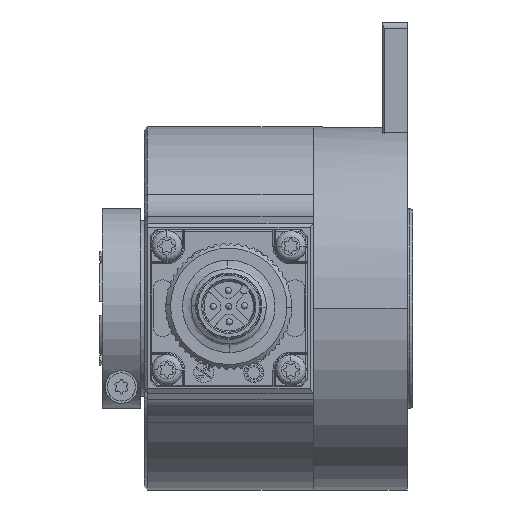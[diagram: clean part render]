
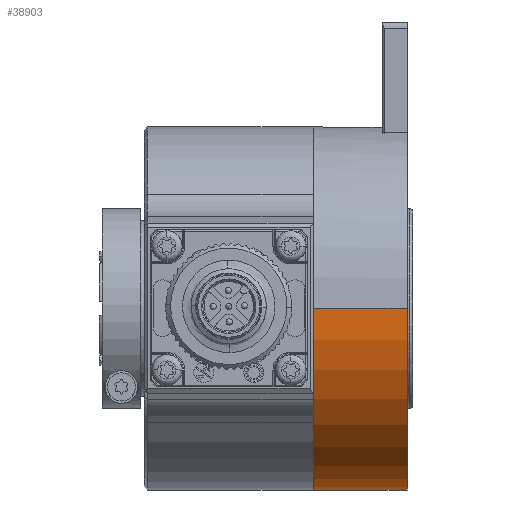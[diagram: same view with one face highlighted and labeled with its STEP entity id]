
A CAD part, top view. The second image highlights one B-rep face of the part: STEP entity #38903.
In plain terms, the highlighted cylindrical face has radius 29 mm (diameter 58 mm), a partial arc.
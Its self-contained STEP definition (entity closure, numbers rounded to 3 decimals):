
#754 = CIRCLE ( 'NONE', #29233, 29. ) ;
#1164 = VECTOR ( 'NONE', #6089, 1000. ) ;
#3835 = EDGE_CURVE ( 'NONE', #40216, #44879, #37153, .T. ) ;
#4527 = ORIENTED_EDGE ( 'NONE', *, *, #21661, .T. ) ;
#6089 = DIRECTION ( 'NONE',  ( -1., 0., 0. ) ) ;
#6325 = DIRECTION ( 'NONE',  ( -1., 0., 0. ) ) ;
#6557 = CARTESIAN_POINT ( 'NONE',  ( -21.996, 0., -29. ) ) ;
#7760 = CIRCLE ( 'NONE', #36244, 29. ) ;
#9242 = CARTESIAN_POINT ( 'NONE',  ( 15., 0., -29. ) ) ;
#9383 = EDGE_CURVE ( 'NONE', #44879, #23040, #7760, .T. ) ;
#10166 = ORIENTED_EDGE ( 'NONE', *, *, #30358, .T. ) ;
#10600 = EDGE_LOOP ( 'NONE', ( #33875, #10166, #4527, #39902 ) ) ;
#10658 = AXIS2_PLACEMENT_3D ( 'NONE', #15649, #19476, #11311 ) ;
#11311 = DIRECTION ( 'NONE',  ( 0., 0., 1. ) ) ;
#11656 = CARTESIAN_POINT ( 'NONE',  ( 0., 0., 0. ) ) ;
#12540 = VERTEX_POINT ( 'NONE', #29502 ) ;
#12881 = CARTESIAN_POINT ( 'NONE',  ( 0., 0., -29. ) ) ;
#15649 = CARTESIAN_POINT ( 'NONE',  ( -21.996, 0., 0. ) ) ;
#16781 = CARTESIAN_POINT ( 'NONE',  ( 15., 0., 0. ) ) ;
#19476 = DIRECTION ( 'NONE',  ( -1., 0., 0. ) ) ;
#20361 = VECTOR ( 'NONE', #6325, 1000. ) ;
#21661 = EDGE_CURVE ( 'NONE', #12540, #23040, #45306, .T. ) ;
#23040 = VERTEX_POINT ( 'NONE', #44489 ) ;
#26717 = DIRECTION ( 'NONE',  ( -1., 0., 0. ) ) ;
#29233 = AXIS2_PLACEMENT_3D ( 'NONE', #16781, #43514, #43770 ) ;
#29502 = CARTESIAN_POINT ( 'NONE',  ( 15., 0., 29. ) ) ;
#30358 = EDGE_CURVE ( 'NONE', #40216, #12540, #754, .T. ) ;
#30432 = CYLINDRICAL_SURFACE ( 'NONE', #10658, 29. ) ;
#33875 = ORIENTED_EDGE ( 'NONE', *, *, #3835, .F. ) ;
#36244 = AXIS2_PLACEMENT_3D ( 'NONE', #11656, #26717, #38159 ) ;
#37153 = LINE ( 'NONE', #6557, #20361 ) ;
#38070 = FACE_OUTER_BOUND ( 'NONE', #10600, .T. ) ;
#38159 = DIRECTION ( 'NONE',  ( 0., 0., 1. ) ) ;
#38903 = ADVANCED_FACE ( 'NONE', ( #38070 ), #30432, .T. ) ;
#39902 = ORIENTED_EDGE ( 'NONE', *, *, #9383, .F. ) ;
#40216 = VERTEX_POINT ( 'NONE', #9242 ) ;
#40963 = CARTESIAN_POINT ( 'NONE',  ( -21.996, 0., 29. ) ) ;
#43514 = DIRECTION ( 'NONE',  ( -1., 0., 0. ) ) ;
#43770 = DIRECTION ( 'NONE',  ( 0., 0., 1. ) ) ;
#44489 = CARTESIAN_POINT ( 'NONE',  ( 0., 0., 29. ) ) ;
#44879 = VERTEX_POINT ( 'NONE', #12881 ) ;
#45306 = LINE ( 'NONE', #40963, #1164 ) ;
